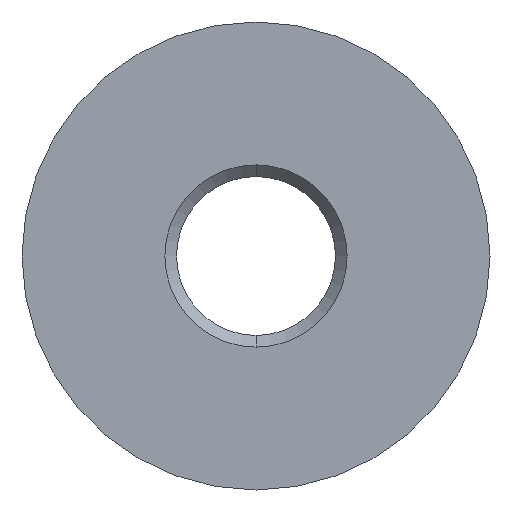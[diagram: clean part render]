
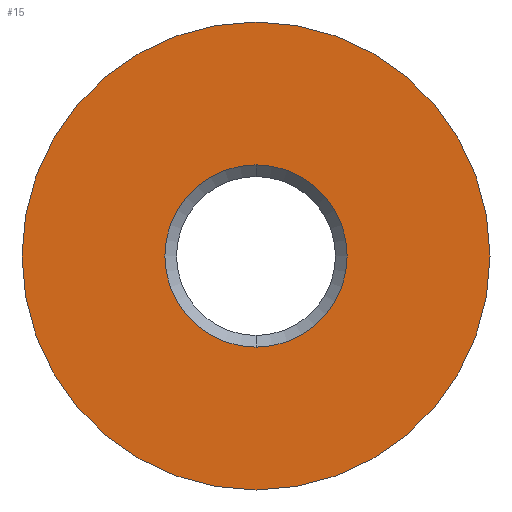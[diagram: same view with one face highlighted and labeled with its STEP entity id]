
A CAD part, front view. The second image highlights one B-rep face of the part: STEP entity #15.
In plain terms, the highlighted planar face has unit normal (0, -1, 0).
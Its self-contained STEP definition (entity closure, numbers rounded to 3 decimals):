
#6 = DIRECTION ( 'NONE',  ( 0., 0., -1. ) ) ;
#11 = EDGE_LOOP ( 'NONE', ( #467, #186 ) ) ;
#15 = ADVANCED_FACE ( 'NONE', ( #176, #342 ), #489, .T. ) ;
#16 = DIRECTION ( 'NONE',  ( 0., 0., -1. ) ) ;
#37 = VERTEX_POINT ( 'NONE', #544 ) ;
#46 = DIRECTION ( 'NONE',  ( 0., 0., -1. ) ) ;
#52 = CIRCLE ( 'NONE', #573, 10.01 ) ;
#66 = EDGE_CURVE ( 'NONE', #234, #37, #185, .T. ) ;
#74 = DIRECTION ( 'NONE',  ( 0., -1., 0. ) ) ;
#80 = CARTESIAN_POINT ( 'NONE',  ( 0., 0., -10.01 ) ) ;
#117 = CARTESIAN_POINT ( 'NONE',  ( 0., 0., 0. ) ) ;
#122 = AXIS2_PLACEMENT_3D ( 'NONE', #161, #239, #6 ) ;
#132 = AXIS2_PLACEMENT_3D ( 'NONE', #561, #297, #339 ) ;
#141 = EDGE_LOOP ( 'NONE', ( #296, #478 ) ) ;
#143 = DIRECTION ( 'NONE',  ( 0., -1., 0. ) ) ;
#146 = CIRCLE ( 'NONE', #132, 3.9 ) ;
#158 = VERTEX_POINT ( 'NONE', #80 ) ;
#159 = VERTEX_POINT ( 'NONE', #433 ) ;
#161 = CARTESIAN_POINT ( 'NONE',  ( 10.01, 0., 0. ) ) ;
#174 = CIRCLE ( 'NONE', #298, 10.01 ) ;
#176 = FACE_BOUND ( 'NONE', #141, .T. ) ;
#185 = CIRCLE ( 'NONE', #195, 3.9 ) ;
#186 = ORIENTED_EDGE ( 'NONE', *, *, #565, .T. ) ;
#188 = EDGE_CURVE ( 'NONE', #37, #234, #146, .T. ) ;
#195 = AXIS2_PLACEMENT_3D ( 'NONE', #117, #369, #16 ) ;
#216 = EDGE_CURVE ( 'NONE', #158, #159, #174, .T. ) ;
#234 = VERTEX_POINT ( 'NONE', #524 ) ;
#239 = DIRECTION ( 'NONE',  ( 0., -1., 0. ) ) ;
#266 = CARTESIAN_POINT ( 'NONE',  ( 0., 0., 0. ) ) ;
#296 = ORIENTED_EDGE ( 'NONE', *, *, #188, .T. ) ;
#297 = DIRECTION ( 'NONE',  ( 0., 1., 0. ) ) ;
#298 = AXIS2_PLACEMENT_3D ( 'NONE', #266, #143, #46 ) ;
#339 = DIRECTION ( 'NONE',  ( 0., 0., -1. ) ) ;
#342 = FACE_OUTER_BOUND ( 'NONE', #11, .T. ) ;
#369 = DIRECTION ( 'NONE',  ( 0., 1., 0. ) ) ;
#383 = DIRECTION ( 'NONE',  ( 0., 0., -1. ) ) ;
#433 = CARTESIAN_POINT ( 'NONE',  ( 0., 0., 10.01 ) ) ;
#467 = ORIENTED_EDGE ( 'NONE', *, *, #216, .T. ) ;
#478 = ORIENTED_EDGE ( 'NONE', *, *, #66, .T. ) ;
#489 = PLANE ( 'NONE',  #122 ) ;
#505 = CARTESIAN_POINT ( 'NONE',  ( 0., 0., 0. ) ) ;
#524 = CARTESIAN_POINT ( 'NONE',  ( 0., 0., 3.9 ) ) ;
#544 = CARTESIAN_POINT ( 'NONE',  ( 0., 0., -3.9 ) ) ;
#561 = CARTESIAN_POINT ( 'NONE',  ( 0., 0., 0. ) ) ;
#565 = EDGE_CURVE ( 'NONE', #159, #158, #52, .T. ) ;
#573 = AXIS2_PLACEMENT_3D ( 'NONE', #505, #74, #383 ) ;
